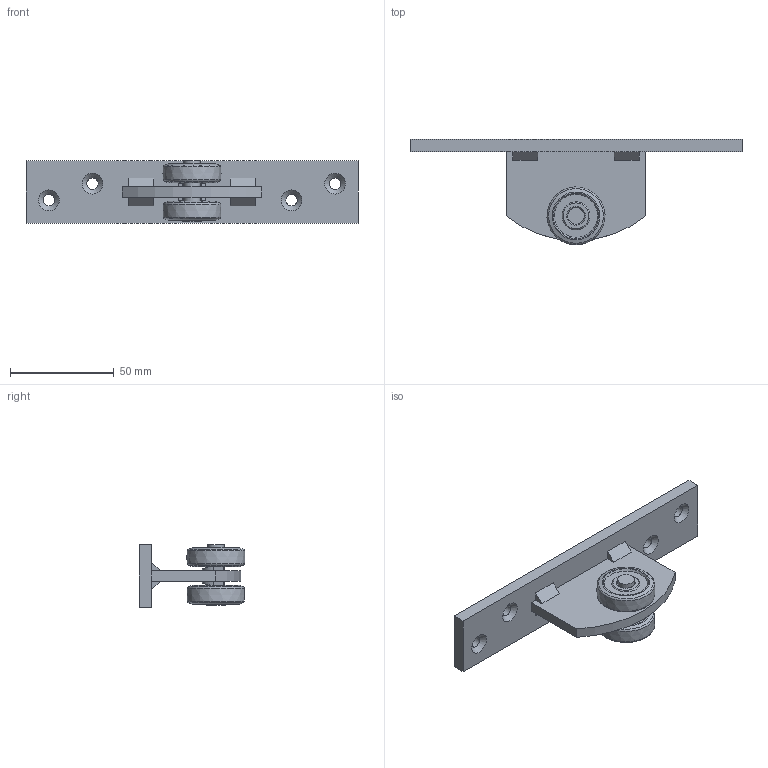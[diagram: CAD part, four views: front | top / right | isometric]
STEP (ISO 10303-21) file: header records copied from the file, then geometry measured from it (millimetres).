
FILE_DESCRIPTION(/* description */ ('Einfachrolle mit Flansch Nr.1'),/* implementation_level */ '2;1');
FILE_NAME(/* name */ 'Q:\sge-ma\Produktmanagement-STB\STB\Workspace\TraceParts\Einfachrolle mit Flansch\010336982.stp',/* time_stamp */ '2018-03-02T11:42:11+01:00',/* author */ ('avschreier'),/* organization */ (''),/* preprocessor_version */ 'ST-DEVELOPER v16.1',/* originating_system */ 'Autodesk Inventor 2016',/* authorisation */ '');
FILE_SCHEMA (('CONFIG_CONTROL_DESIGN'));
Length unit declared in the file: millimetre
Products named in the file (7): 010336982_Schweißnähte; 000302038; 000302021; 000303235; 336290010; 000304011; 010336982
Assembly tree (8 placements, depth 2):
  010336982
    010336982_Schweißnähte
    000302038
    000302021
    000303235  x2
    336290010  x2
    000304011
Bounding box: 160 x 50.99 x 30 mm (x, y, z)
Volume: 51511.2 mm3; surface area: 24485.3 mm2
Topology: 11 solids, 11 shells, 163 faces, 374 edges, 242 vertices
Faces by surface type: plane 104, cone 21, cylinder 19, bspline 14, torus 5
Full cylindrical faces by diameter (mm): 5.5 x4, 8 x3, 10 x1
Entity records: 3743 total; most frequent: CARTESIAN_POINT 1271, DIRECTION 498, ORIENTED_EDGE 426, EDGE_CURVE 213, AXIS2_PLACEMENT_3D 183, VERTEX_POINT 152, EDGE_LOOP 147, LINE 132
